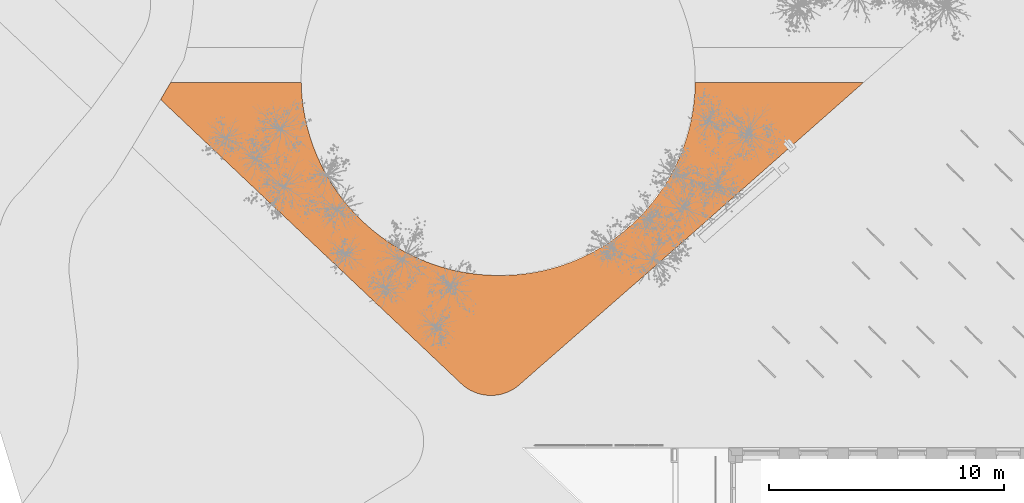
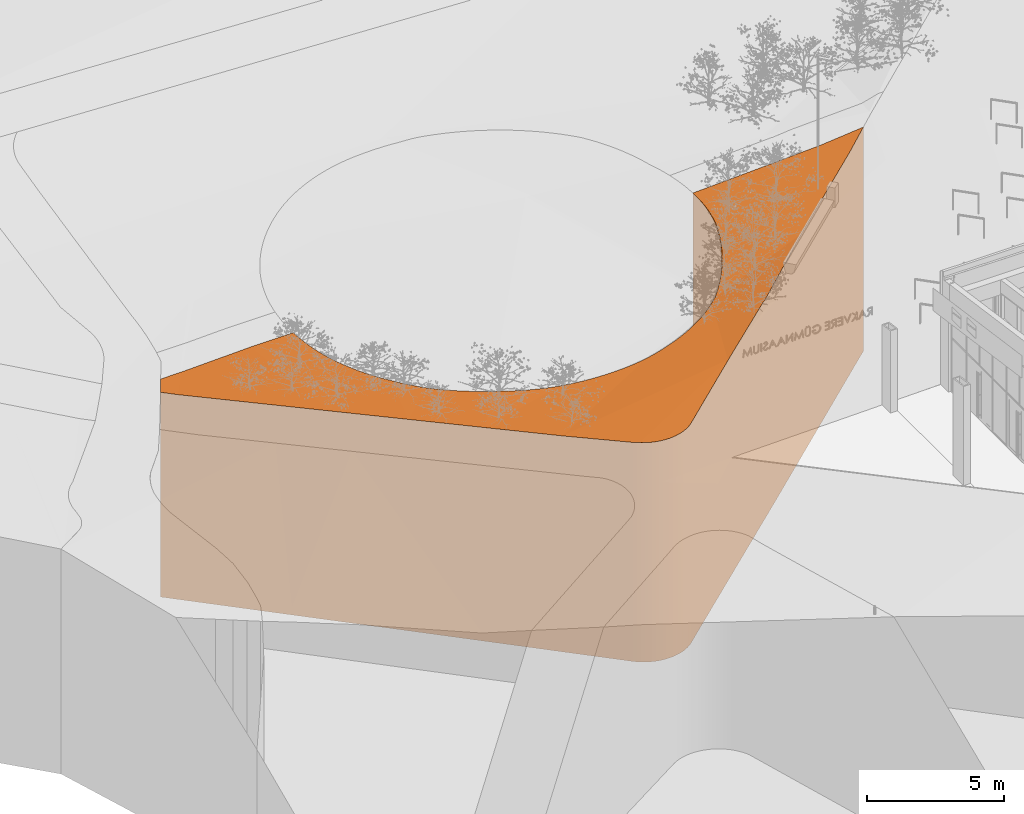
# One storey, part 221 of 246: 1 proxy.
"""IFC2X3 building model written with IfcOpenShell, lengths in millimetres."""

from ifc_helpers import new_model, entity, si_unit, converted_unit, derived_unit, money_unit, direction, frame, origin_with_axes, place, context, subcontext, project, spatial, faceted_brep, material, type_object, element, save


model = new_model("IFC2X3")

# Units and contexts
model_context = context("Model", 3, precision=0.01, world=origin_with_axes(), true_north=direction((0.0, 1.0)))
body_context = subcontext(model_context, "Body", "Model", "MODEL_VIEW")
ifc_project = project(units=[si_unit("LENGTHUNIT", "METRE", prefix="MILLI"), si_unit("AREAUNIT", "SQUARE_METRE"), si_unit("VOLUMEUNIT", "CUBIC_METRE"), converted_unit("PLANEANGLEUNIT", "DEGREE", entity("IfcPlaneAngleMeasure", 0.0174532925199), si_unit("PLANEANGLEUNIT", "RADIAN"), dimensions=[0, 0, 0, 0, 0, 0, 0]), si_unit("SOLIDANGLEUNIT", "STERADIAN"), money_unit("EUR"), converted_unit("TIMEUNIT", "Year", entity("IfcTimeMeasure", 31556926.0), si_unit("TIMEUNIT", "SECOND"), dimensions=[0, 0, 1, 0, 0, 0, 0]), si_unit("MASSUNIT", "GRAM", prefix="KILO"), si_unit("THERMODYNAMICTEMPERATUREUNIT", "DEGREE_CELSIUS"), si_unit("LUMINOUSINTENSITYUNIT", "LUMEN"), si_unit("ENERGYUNIT", "JOULE", prefix="MEGA"), derived_unit("THERMALCONDUCTANCEUNIT", [(si_unit("POWERUNIT", "WATT"), 1), (si_unit("LENGTHUNIT", "METRE"), -1), (si_unit("THERMODYNAMICTEMPERATUREUNIT", "KELVIN"), -1)]), derived_unit("SPECIFICHEATCAPACITYUNIT", [(si_unit("ENERGYUNIT", "JOULE"), 1), (si_unit("MASSUNIT", "GRAM", prefix="KILO"), -1), (si_unit("THERMODYNAMICTEMPERATUREUNIT", "KELVIN"), -1)]), derived_unit("MASSDENSITYUNIT", [(si_unit("MASSUNIT", "GRAM", prefix="KILO"), 1), (si_unit("VOLUMEUNIT", "CUBIC_METRE"), -1)])], contexts=[model_context])

# Site, building, storey
site_placement = place(None, origin_with_axes())
site = spatial("IfcSite", under=ifc_project, at=site_placement, Name="L.Koidula tn 11b", CompositionType="ELEMENT")
building_placement = place(site_placement, origin_with_axes())
building = spatial("IfcBuilding", under=site, at=building_placement, Name="Rakvere Riigigümnaasium", CompositionType="ELEMENT")
storey_placement = place(building_placement, origin_with_axes())
storey = spatial("IfcBuildingStorey", under=building, at=storey_placement, Name="1.korrus 0,00", CompositionType="ELEMENT", Elevation=0.0)

# Proxy
ifc_material = material(Name="Roheala")
building_element_proxy_type = type_object("IfcBuildingElementProxyType", Name="Roheala", PredefinedType="NOTDEFINED")
proxy_placement = place(storey_placement, frame((-10094.2172469, 74350.3441278, -10000.0), z_axis=(0.0, 0.0, 1.0), x_axis=(1.0, 0.0, 0.0)))
element("IfcBuildingElementProxy", 1, at=proxy_placement, inside=storey, type_object=building_element_proxy_type, material=ifc_material, Name="Roheala", context=body_context, shape_type="Brep", body=[
    faceted_brep([(27959.7809066, 13341.9624857, 9776.34870042), (28067.7137734, 13341.9624857, 9775.80485964), (29970.3520852, 13341.9624857, 9960.18231059), (29970.3520852, 13341.9624857, 0.0), (22797.3758008, 13341.9624857, 0.0), (22797.3758008, 13341.9624857, 9537.85332057), (26067.65752, 13341.9624857, 9682.07458325), (28749.8756416, 12265.4249493, 9882.9671383), (28785.0607571, 12296.46045, 9879.6013787), (24132.925529, 8192.98248163, 9890.44431123), (22488.2959581, 6742.31501828, 9786.32051291), (22488.2959581, 6742.31501828, 0.0), (24727.865444, 8717.75717415, 9904.19874544), (24511.1341496, 8526.58644324, 9900.64498394), (24472.4299984, 8492.44693012, 9900.0), (12816.9460381, 504.948195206, 0.0), (0.0, 12616.4542326, 0.0), (424.551895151, 13341.9624857, 0.0), (5998.09614342, 13341.9624857, 0.0), (6001.2247668, 13196.9577537, 0.0), (6017.48829207, 12907.3370706, 0.0), (6043.73871432, 12618.4503149, 0.0), (6079.94475041, 12330.6417582, 0.0), (6126.06325294, 12044.2543876, 0.0), (6151.82111725, 11913.3231636, 0.0), (6163.45562736, 11854.8345789, 0.0), (6192.25685612, 11712.6844829, 0.0), (6239.96111223, 11513.8394903, 0.0), (6274.64901174, 11373.0101247, 0.0), (6338.65731916, 11148.7366561, 0.0), (6379.64806655, 11009.6111041, 0.0), (6464.46686489, 10757.3238266, 0.0), (6512.21465521, 10620.3701516, 0.0), (6624.01680816, 10336.332387, 0.0), (6679.03226325, 10202.1330565, 0.0), (6798.26169597, 9937.6921658, 0.0), (6826.92463738, 9880.44610517, 0.0), (6889.81015433, 9749.74961578, 0.0), (7024.52852275, 9492.85352096, 0.0), (7088.80843204, 9379.96163392, 0.0), (7160.33391888, 9253.78610018, 0.0), (7312.00983879, 9006.52296576, 0.0), (7440.11149567, 8813.81428154, 0.0), (7521.41050467, 8693.70336732, 0.0), (7692.20316713, 8459.23693309, 0.0), (7870.98693719, 8230.80531119, 0.0), (8057.54875486, 8008.68072787, 0.0), (8251.6662909, 7793.12789322, 0.0), (8453.10821176, 7584.4036856, 0.0), (8661.63445531, 7382.75684561, 0.0), (8876.99651688, 7188.4276796, 0.0), (9098.93774543, 7001.64777331, 0.0), (9327.1936494, 6822.63971587, 0.0), (9561.49221192, 6651.61683458, 0.0), (9801.55421497, 6488.78294063, 0.0), (10047.0935721, 6334.33208626, 0.0), (10297.8176695, 6188.44833346, 0.0), (10572.1468947, 6043.11009656, 0.0), (10701.2771594, 5977.06817564, 0.0), (10935.1900576, 5868.28959023, 0.0), (11067.3382859, 5808.51496065, 0.0), (11220.0918861, 5745.70322322, 0.0), (11354.356349, 5690.84691451, 0.0), (11456.0414167, 5653.42799281, 0.0), (11591.8988465, 5602.64493103, 0.0), (11657.3853747, 5581.07452669, 0.0), (11794.4918578, 5533.76730849, 0.0), (11832.47519, 5522.80528488, 0.0), (11970.5875874, 5478.5206794, 0.0), (11986.6967699, 5474.984767, 0.0), (12123.7731199, 5435.18594366, 0.0), (12146.6671679, 5428.78416828, 0.0), (12286.4026717, 5389.92352575, 0.0), (12568.3897927, 5321.8948118, 0.0), (12852.5569776, 5263.63974005, 0.0), (13138.5655789, 5215.22773418, 0.0), (13426.0747547, 5176.71648768, 0.0), (13714.7418751, 5148.15189515, 0.0), (14004.2229299, 5129.56799755, 0.0), (14180.2282261, 5124.41650226, 0.0), (14324.4333481, 5119.12842516, 0.0), (14613.0369002, 5118.56842765, 0.0), (14901.4860155, 5128.02526158, 0.0), (15189.4331355, 5147.4875322, 0.0), (15476.5313062, 5176.931789, 0.0), (15762.4345966, 5216.32255393, 0.0), (16046.7985157, 5265.61236419, 0.0), (16329.280427, 5324.74182941, 0.0), (16609.5399618, 5393.63970318, 0.0), (16887.2394292, 5472.22296893, 0.0), (17162.044223, 5560.39693994, 0.0), (17433.6232248, 5658.05537345, 0.0), (17701.6492031, 5765.08059865, 0.0), (17965.7992074, 5881.34365848, 0.0), (18225.7549576, 6006.70446502, 0.0), (18481.2032272, 6141.01196824, 0.0), (18731.8362209, 6284.10433807, 0.0), (18977.3519456, 6435.80915936, 0.0), (19217.4545739, 6595.9436396, 0.0), (19451.8548008, 6764.31482922, 0.0), (19680.2701923, 6940.71985405, 0.0), (19902.4255256, 7124.94615978, 0.0), (20118.053121, 7316.77176806, 0.0), (20326.8931638, 7515.96554396, 0.0), (20528.6940182, 7722.28747451, 0.0), (20723.2125299, 7935.48895784, 0.0), (20910.2143191, 8155.31310278, 0.0), (21089.4740632, 8381.49503836, 0.0), (21260.7757684, 8613.76223295, 0.0), (21423.9130292, 8851.83482268, 0.0), (21578.6892781, 9095.42594861, 0.0), (21724.9180218, 9344.24210243, 0.0), (21862.4230658, 9597.98348003, 0.0), (21991.0387276, 9856.34434283, 0.0), (22110.610035, 10119.0133861, 0.0), (22220.9929141, 10385.6741141, 0.0), (22322.0543621, 10656.0052215, 0.0), (22413.6726077, 10929.6809802, 0.0), (22495.7372582, 11206.3716324, 0.0), (22568.149432, 11485.7437873, 0.0), (22630.8218781, 11767.4608233, 0.0), (22683.6790811, 12051.1832932, 0.0), (22726.6573522, 12336.5693337, 0.0), (22759.7049059, 12623.2750767, 0.0), (22782.7819224, 12910.9550641, 0.0), (22795.8605959, 13199.262664, 0.0), (16097.6453189, 1155.06776698, 0.0), (15262.9959866, 421.780872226, 0.0), (15148.7741797, 333.403582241, 0.0), (15033.8705008, 259.139117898, 0.0), (14913.7959857, 193.563384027, 0.0), (14789.2064395, 137.034532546, 0.0), (14660.7823272, 89.861304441, 0.0), (14529.2250567, 52.3013435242, 0.0), (14395.2531484, 24.5597892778, 0.0), (14259.5983101, 6.78815645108, 0.0), (14123.0014417, -0.916492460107, 0.0), (13986.2085879, 1.48792266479, 0.0), (13849.9668638, 13.9882697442, 0.0), (13715.0203744, 36.516276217, 0.0), (13582.1061507, 68.9489019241, 0.0), (13451.9501241, 111.10901111, 0.0), (13325.2631617, 162.76633988, 0.0), (13202.7371836, 223.638753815, 0.0), (13085.0413845, 293.393788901, 0.0), (12972.8185777, 371.650467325, 0.0), (12866.6816855, 457.981378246, 0.0), (22795.8605959, 13199.262664, 9546.43260999), (22782.7819224, 12910.9550641, 9563.32424638), (22759.7049059, 12623.2750767, 9579.7369235), (22726.6573522, 12336.5693337, 9595.65086533), (22683.6790811, 12051.1832932, 9611.04689683), (22630.8218781, 11767.4608233, 9625.90646697), (22568.149432, 11485.7437873, 9640.21167113), (22495.7372582, 11206.3716324, 9653.94527265), (22467.4544362, 11111.0127608, 9658.47573062), (24513.5796709, 8614.06202343, 9900.0), (20439.6724307, 7613.92335392, 9200.0), (21506.4998457, 5883.94582553, 9722.85973559), (18404.1392305, 3171.59980661, 9800.0), (16097.6453189, 1155.06776698, 9781.55058466), (21380.6390022, 5773.90763203, 9759.07818733), (18639.0487416, 3376.97756764, 9802.13894293), (18577.4255008, 3323.10131903, 9801.45084806), (18428.6471841, 3193.0267323, 9800.40436332), (464.054813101, 12177.9408259, 9100.38136445), (0.0, 12616.4542326, 9100.29510989), (12816.9460381, 504.948195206, 9734.59904426), (11308.0742313, 1930.77225215, 9626.69323018), (10936.7556511, 2281.65359412, 9600.06523937), (10936.0327502, 2282.33670684, 9599.92614861), (8847.93438122, 4255.50690879, 9499.63374095), (8841.37095949, 4261.7090822, 9499.68468669), (6750.52553508, 6237.47514267, 9399.57072939), (6741.07236321, 6246.40801543, 9399.43941537), (4650.49683687, 8221.91903292, 9299.4854692), (4650.0861758, 8222.30709135, 9299.479419), (4629.25531337, 8241.99143077, 9299.08101926), (465.230389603, 12176.8299527, 9100.37298379), (424.551895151, 13341.9624857, 9105.94600033), (4211.01148171, 13341.9624857, 9206.31561654), (5998.09614342, 13341.9624857, 9210.06837034), (1248.5463681, 13341.9624857, 9109.94987553), (1299.98201089, 13341.9624857, 9109.96994883), (6001.2247668, 13196.9577537, 9212.68751725), (6017.48829207, 12907.3370706, 9217.93981882), (6043.73871432, 12618.4503149, 9223.19986888), (6079.94475041, 12330.6417582, 9228.46139892), (6126.06325294, 12044.2543876, 9233.71813869), (6151.82111725, 11913.3231636, 9236.13124044), (6163.45562736, 11854.8345789, 9237.20947173), (6192.25685612, 11712.6844829, 9239.83109683), (6239.96111223, 11513.8394903, 9243.51389938), (6274.64901174, 11373.0101247, 9246.12409024), (6323.58401849, 11201.5507604, 9249.13774827), (6338.65731916, 11148.7366561, 9250.96075393), (6302.39888996, 11275.779598, 9247.9341834), (6379.64806655, 11009.6111041, 9255.78971835), (6464.46686489, 10757.3238266, 9264.76464316), (6512.21465521, 10620.3701516, 9269.67211757), (6624.01680816, 10336.332387, 9280.11584967), (6679.03226325, 10202.1330565, 9285.09581095), (6798.26169597, 9937.6921658, 9295.13399881), (6826.92463738, 9880.44610517, 9297.36640223), (6889.81015433, 9749.74961578, 9302.40999165), (7024.52852275, 9492.85352096, 9312.55480215), (7088.80843204, 9379.96163392, 9317.11855455), (7160.33391888, 9253.78610018, 9322.2126929), (7312.00983879, 9006.52296576, 9332.43500201), (7440.11149567, 8813.81428154, 9340.60770341), (7480.71969245, 8753.81985233, 9343.16717674), (7521.41050467, 8693.70336732, 9344.18206833), (7692.20316713, 8459.23693309, 9348.07117807), (7870.98693719, 8230.80531119, 9351.78931761), (8057.54875486, 8008.68072787, 9355.33205597), (8251.6662909, 7793.12789322, 9358.69517119), (8313.83669873, 7728.70997535, 9359.67644574), (8453.10821176, 7584.4036856, 9366.83598404), (8661.63445531, 7382.75684561, 9376.99837754), (8876.99651688, 7188.4276796, 9386.95551795), (9098.93774543, 7001.64777331, 9396.69553916), (9327.1936494, 6822.63971587, 9406.2068338), (9561.49221192, 6651.61683458, 9415.47806709), (9801.55421497, 6488.78294063, 9424.49819032), (10047.0935721, 6334.33208626, 9433.25645403), (10239.9096558, 6222.14209659, 9439.78247568), (10297.8176695, 6188.44833346, 9439.01875872), (10572.1468947, 6043.11009656, 9435.18737658), (10701.2771594, 5977.06817564, 9433.34846894), (10935.1900576, 5868.28959023, 9429.85519264), (11067.3382859, 5808.51496065, 9427.85658143), (11220.0918861, 5745.70322322, 9425.45243542), (11354.356349, 5690.84691451, 9423.33401303), (11456.0414167, 5653.42799281, 9421.66796144), (11591.8988465, 5602.64493103, 9419.45380782), (11657.3853747, 5581.07452669, 9418.34307159), (11794.4918578, 5533.76730849, 9416.04964053), (11832.47519, 5522.80528488, 9415.38224278), (11970.5875874, 5478.5206794, 9413.02162821), (11986.6967699, 5474.984767, 9412.72194089), (12123.7731199, 5435.18594366, 9410.31696265), (12146.6671679, 5428.78416828, 9409.91162525), (12286.4026717, 5389.92352575, 9407.43443458), (12505.7688552, 5337.00196219, 9403.42475844), (12568.3897927, 5321.8948118, 9403.79216935), (12852.5569776, 5263.63974005, 9404.84233716), (13138.5655789, 5215.22773418, 9405.28694042), (13426.0747547, 5176.71648768, 9405.12544928), (13714.7418751, 5148.15189515, 9404.3580562), (14004.2229299, 5129.56799755, 9402.98567569), (14180.2282261, 5124.41650226, 9401.78293016), (14324.4333481, 5119.12842516, 9400.86144372), (14613.0369002, 5118.56842765, 9398.41668819), (14901.4860155, 5128.02526158, 9395.37309572), (15189.4331355, 5147.4875322, 9391.73433362), (15476.5313062, 5176.931789, 9387.50478631), (15762.4345966, 5216.32255393, 9382.68955006), (16046.7985157, 5265.61236419, 9377.29442686), (16181.5928426, 5293.82768045, 9374.4463818), (16329.280427, 5324.74182941, 9376.44622179), (16609.5399618, 5393.63970318, 9378.65544077), (16887.2394292, 5472.22296893, 9379.24612459), (17162.044223, 5560.39693994, 9378.21756155), (17433.6232248, 5658.05537345, 9375.57099096), (17701.6492031, 5765.08059865, 9371.30960175), (17965.7992074, 5881.34365848, 9365.43852856), (18225.7549576, 6006.70446502, 9357.96484557), (18481.2032272, 6141.01196824, 9348.89755798), (18731.8362209, 6284.10433807, 9338.24759119), (18977.3519456, 6435.80915936, 9326.02777755), (19217.4545739, 6595.9436396, 9312.25284101), (19451.8548008, 6764.31482922, 9296.93937927), (19680.2701923, 6940.71985405, 9280.10584388), (19902.4255256, 7124.94615978, 9261.77251793), (20110.2921969, 7309.86753122, 9242.67453523), (20118.053121, 7316.77176806, 9242.52852595), (20313.9657207, 7503.63521607, 9236.29399366), (20326.8931638, 7515.96554396, 9232.25350964), (20435.9005397, 7627.41508312, 9199.88092049), (20528.6940182, 7722.28747451, 9218.47042646), (20423.4811504, 7614.71745417, 9200.0), (20723.2125299, 7935.48895784, 9257.96434078), (20910.2143191, 8155.31310278, 9296.47740741), (21089.4740632, 8381.49503836, 9333.96322112), (21260.7757684, 8613.76223295, 9370.37661441), (21423.9130292, 8851.83482268, 9405.67371199), (21578.6892781, 9095.42594861, 9439.81198359), (21724.9180218, 9344.24210243, 9472.75029527), (21862.4230658, 9597.98348003, 9504.44895893), (21991.0387276, 9856.34434283, 9534.86978013), (22110.610035, 10119.0133861, 9563.97610416), (22220.9929141, 10385.6741141, 9591.73286017), (22322.0543621, 10656.0052215, 9618.10660343), (22413.6726077, 10929.6809802, 9643.06555564), (15262.9959866, 421.780872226, 9774.88801309), (15148.7741797, 333.403582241, 9773.9302213), (15033.8705008, 259.139117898, 9772.91044128), (14913.7959857, 193.563384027, 9771.79852946), (14822.0328757, 151.928564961, 9770.91619602), (14789.2064395, 137.034532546, 9770.69800607), (14660.7823272, 89.861304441, 9769.74108372), (14529.2250567, 52.3013435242, 9768.66058413), (14395.2531484, 24.5597892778, 9767.4624086), (14259.5983101, 6.78815645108, 9766.15310116), (14123.0014417, -0.916492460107, 9764.73981279), (13986.2085879, 1.48792266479, 9763.23026237), (13849.9668638, 13.9882697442, 9761.63269456), (13715.0203744, 36.516276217, 9759.9558347), (13582.1061507, 68.9489019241, 9758.20884124), (13451.9501241, 111.10901111, 9756.40125564), (13325.2631617, 162.76633988, 9754.5429503), (13202.7371836, 223.638753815, 9752.64407465), (13085.0413845, 293.393788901, 9750.71499969), (13048.5707022, 318.826003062, 9750.12958478), (12972.8185777, 371.650467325, 9745.48648935), (13062.9731094, 308.782727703, 9750.3317862), (12953.7862669, 387.131198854, 9744.22700037), (12866.6816855, 457.981378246, 9738.15541918), (18417.4625837, 3210.97608205, 9800.0)], [[[0, 1, 2, 3, 4, 5, 6]], [[7, 8, 1, 0]], [[8, 2, 1]], [[9, 10, 11, 3, 2, 8, 7, 12, 13, 14]], [[15, 16, 17, 18, 19, 20, 21, 22, 23, 24, 25, 26, 27, 28, 29, 30, 31, 32, 33, 34, 35, 36, 37, 38, 39, 40, 41, 42, 43, 44, 45, 46, 47, 48, 49, 50, 51, 52, 53, 54, 55, 56, 57, 58, 59, 60, 61, 62, 63, 64, 65, 66, 67, 68, 69, 70, 71, 72, 73, 74, 75, 76, 77, 78, 79, 80, 81, 82, 83, 84, 85, 86, 87, 88, 89, 90, 91, 92, 93, 94, 95, 96, 97, 98, 99, 100, 101, 102, 103, 104, 105, 106, 107, 108, 109, 110, 111, 112, 113, 114, 115, 116, 117, 118, 119, 120, 121, 122, 123, 124, 125, 4, 3, 11, 126, 127, 128, 129, 130, 131, 132, 133, 134, 135, 136, 137, 138, 139, 140, 141, 142, 143, 144, 145, 146]], [[147, 5, 4, 125]], [[6, 5, 147, 148, 149, 150, 151, 152, 153, 154, 155, 156]], [[12, 7, 0, 6, 156]], [[10, 9, 156, 157, 158]], [[159, 160, 126, 11, 10, 158, 161, 162, 163, 164]], [[13, 12, 156]], [[14, 13, 156]], [[9, 14, 156]], [[165, 166, 16, 15, 167, 168, 169, 170, 171, 172, 173, 174, 175, 176, 177, 178]], [[166, 179, 17, 16]], [[180, 181, 18, 17, 179, 182, 183]], [[181, 184, 19, 18]], [[184, 185, 20, 19]], [[185, 186, 21, 20]], [[186, 187, 22, 21]], [[187, 188, 23, 22]], [[188, 189, 24, 23]], [[189, 190, 25, 24]], [[190, 191, 26, 25]], [[191, 192, 27, 26]], [[192, 193, 28, 27]], [[194, 195, 29, 28, 193, 196]], [[195, 197, 30, 29]], [[197, 198, 31, 30]], [[198, 199, 32, 31]], [[199, 200, 33, 32]], [[200, 201, 34, 33]], [[201, 202, 35, 34]], [[202, 203, 36, 35]], [[203, 204, 37, 36]], [[204, 205, 38, 37]], [[205, 206, 39, 38]], [[206, 207, 40, 39]], [[207, 208, 41, 40]], [[208, 209, 42, 41]], [[210, 211, 43, 42, 209]], [[211, 212, 44, 43]], [[212, 213, 45, 44]], [[213, 214, 46, 45]], [[214, 215, 47, 46]], [[216, 217, 48, 47, 215]], [[217, 218, 49, 48]], [[218, 219, 50, 49]], [[219, 220, 51, 50]], [[220, 221, 52, 51]], [[221, 222, 53, 52]], [[222, 223, 54, 53]], [[223, 224, 55, 54]], [[225, 226, 56, 55, 224]], [[226, 227, 57, 56]], [[227, 228, 58, 57]], [[228, 229, 59, 58]], [[229, 230, 60, 59]], [[230, 231, 61, 60]], [[231, 232, 62, 61]], [[232, 233, 63, 62]], [[233, 234, 64, 63]], [[234, 235, 65, 64]], [[235, 236, 66, 65]], [[236, 237, 67, 66]], [[237, 238, 68, 67]], [[238, 239, 69, 68]], [[239, 240, 70, 69]], [[240, 241, 71, 70]], [[241, 242, 72, 71]], [[243, 244, 73, 72, 242]], [[244, 245, 74, 73]], [[245, 246, 75, 74]], [[246, 247, 76, 75]], [[247, 248, 77, 76]], [[248, 249, 78, 77]], [[249, 250, 79, 78]], [[250, 251, 80, 79]], [[251, 252, 81, 80]], [[252, 253, 82, 81]], [[253, 254, 83, 82]], [[254, 255, 84, 83]], [[255, 256, 85, 84]], [[256, 257, 86, 85]], [[258, 259, 87, 86, 257]], [[259, 260, 88, 87]], [[260, 261, 89, 88]], [[261, 262, 90, 89]], [[262, 263, 91, 90]], [[263, 264, 92, 91]], [[264, 265, 93, 92]], [[265, 266, 94, 93]], [[266, 267, 95, 94]], [[267, 268, 96, 95]], [[268, 269, 97, 96]], [[269, 270, 98, 97]], [[270, 271, 99, 98]], [[271, 272, 100, 99]], [[272, 273, 101, 100]], [[274, 275, 102, 101, 273]], [[276, 277, 103, 102, 275]], [[278, 279, 104, 103, 277, 280]], [[279, 281, 105, 104]], [[281, 282, 106, 105]], [[282, 283, 107, 106]], [[283, 284, 108, 107]], [[284, 285, 109, 108]], [[285, 286, 110, 109]], [[286, 287, 111, 110]], [[287, 288, 112, 111]], [[288, 289, 113, 112]], [[289, 290, 114, 113]], [[290, 291, 115, 114]], [[291, 292, 116, 115]], [[292, 293, 117, 116]], [[155, 154, 118, 117, 293]], [[154, 153, 119, 118]], [[153, 152, 120, 119]], [[152, 151, 121, 120]], [[151, 150, 122, 121]], [[150, 149, 123, 122]], [[149, 148, 124, 123]], [[148, 147, 125, 124]], [[160, 294, 127, 126]], [[294, 295, 128, 127]], [[295, 296, 129, 128]], [[296, 297, 130, 129]], [[298, 299, 131, 130, 297]], [[299, 300, 132, 131]], [[300, 301, 133, 132]], [[301, 302, 134, 133]], [[302, 303, 135, 134]], [[303, 304, 136, 135]], [[304, 305, 137, 136]], [[305, 306, 138, 137]], [[306, 307, 139, 138]], [[307, 308, 140, 139]], [[308, 309, 141, 140]], [[309, 310, 142, 141]], [[310, 311, 143, 142]], [[311, 312, 144, 143]], [[313, 314, 145, 144, 312, 315]], [[316, 317, 146, 145, 314]], [[317, 167, 15, 146]], [[155, 293, 292, 291, 290, 289, 288, 287, 286, 285, 284, 283, 282, 281, 279, 278, 157, 156]], [[161, 158, 157, 280, 277, 276]], [[160, 159, 318, 313, 315, 298, 297, 296, 295, 294]], [[162, 161, 276, 275, 274, 318]], [[163, 162, 318]], [[164, 163, 318]], [[159, 164, 318]], [[182, 179, 166, 165]], [[317, 316, 168, 167]], [[314, 313, 318, 169, 168, 316]], [[274, 273, 272, 271, 270, 269, 268, 267, 266, 265, 264, 263, 262, 261, 260, 259, 258, 170, 169, 318]], [[258, 257, 256, 255, 254, 253, 252, 251, 250, 249, 248, 247, 246, 245, 244, 243, 171, 170]], [[243, 242, 241, 240, 239, 238, 237, 236, 235, 234, 233, 232, 231, 230, 229, 228, 227, 226, 225, 172, 171]], [[225, 224, 223, 222, 221, 220, 219, 218, 217, 216, 173, 172]], [[216, 215, 214, 213, 212, 211, 210, 174, 173]], [[210, 209, 208, 207, 206, 205, 204, 203, 202, 201, 200, 199, 198, 197, 195, 194, 175, 174]], [[194, 196, 176, 175]], [[196, 193, 192, 191, 190, 189, 188, 187, 186, 185, 184, 181, 180, 177, 176]], [[178, 177, 180, 183]], [[183, 182, 165, 178]], [[278, 280, 157]], [[299, 298, 315, 312, 311, 310, 309, 308, 307, 306, 305, 304, 303, 302, 301, 300]]]),
])

save(model, "model.ifc")
